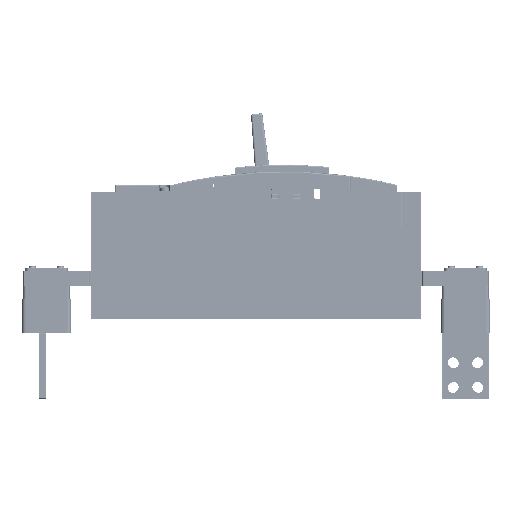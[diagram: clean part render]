
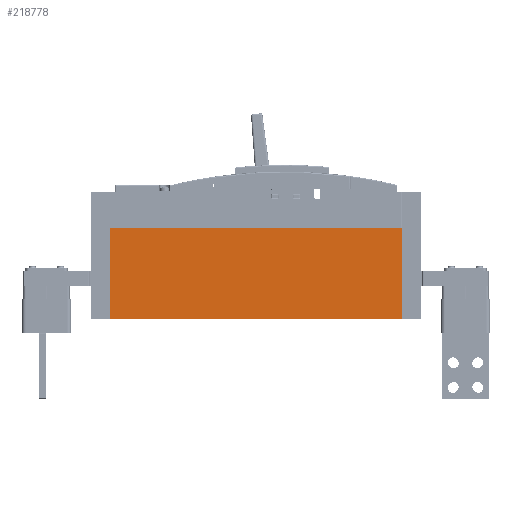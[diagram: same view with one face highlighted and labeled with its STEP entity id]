
A CAD part, left-side view. The second image highlights one B-rep face of the part: STEP entity #218778.
In plain terms, the highlighted planar face has unit normal (-1, 0, 0).
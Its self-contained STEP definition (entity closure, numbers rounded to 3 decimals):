
#90401 = VERTEX_POINT ( 'NONE', #231485 ) ;
#90411 = EDGE_CURVE ( 'NONE', #90416, #90401, #231481, .T. ) ;
#90416 = VERTEX_POINT ( 'NONE', #231466 ) ;
#90841 = VERTEX_POINT ( 'NONE', #232676 ) ;
#90851 = VERTEX_POINT ( 'NONE', #232674 ) ;
#91217 = EDGE_CURVE ( 'NONE', #90841, #90851, #233834, .T. ) ;
#218474 = ORIENTED_EDGE ( 'NONE', *, *, #218768, .T. ) ;
#218480 = ORIENTED_EDGE ( 'NONE', *, *, #90411, .T. ) ;
#218492 = ORIENTED_EDGE ( 'NONE', *, *, #218495, .F. ) ;
#218495 = EDGE_CURVE ( 'NONE', #90851, #90401, #240263, .T. ) ;
#218497 = ORIENTED_EDGE ( 'NONE', *, *, #91217, .F. ) ;
#218768 = EDGE_CURVE ( 'NONE', #90841, #90416, #240898, .T. ) ;
#218778 = ADVANCED_FACE ( 'NONE', ( #240880 ), #240956, .F. ) ;
#218786 = EDGE_LOOP ( 'NONE', ( #218474, #218480, #218492, #218497 ) ) ;
#231466 = CARTESIAN_POINT ( 'NONE',  ( -185.989, 138.477, -36.706 ) ) ;
#231478 = DIRECTION ( 'NONE',  ( 0., -1., 0. ) ) ;
#231479 = VECTOR ( 'NONE', #231478, 1000. ) ;
#231480 = CARTESIAN_POINT ( 'NONE',  ( -185.989, -171.523, -36.706 ) ) ;
#231481 = LINE ( 'NONE', #231480, #231479 ) ;
#231485 = CARTESIAN_POINT ( 'NONE',  ( -185.989, -171.523, -36.706 ) ) ;
#232674 = CARTESIAN_POINT ( 'NONE',  ( -185.989, -171.523, 59.794 ) ) ;
#232676 = CARTESIAN_POINT ( 'NONE',  ( -185.989, 138.477, 59.794 ) ) ;
#233830 = DIRECTION ( 'NONE',  ( 0., -1., 0. ) ) ;
#233832 = VECTOR ( 'NONE', #233830, 1000. ) ;
#233833 = CARTESIAN_POINT ( 'NONE',  ( -185.989, -171.523, 59.794 ) ) ;
#233834 = LINE ( 'NONE', #233833, #233832 ) ;
#240259 = DIRECTION ( 'NONE',  ( 0., 0., -1. ) ) ;
#240260 = VECTOR ( 'NONE', #240259, 1000. ) ;
#240262 = CARTESIAN_POINT ( 'NONE',  ( -185.989, -171.523, 59.794 ) ) ;
#240263 = LINE ( 'NONE', #240262, #240260 ) ;
#240880 = FACE_OUTER_BOUND ( 'NONE', #218786, .T. ) ;
#240892 = DIRECTION ( 'NONE',  ( 0., 0., -1. ) ) ;
#240894 = VECTOR ( 'NONE', #240892, 1000. ) ;
#240896 = CARTESIAN_POINT ( 'NONE',  ( -185.989, 138.477, 59.794 ) ) ;
#240898 = LINE ( 'NONE', #240896, #240894 ) ;
#240946 = DIRECTION ( 'NONE',  ( 0., 0., -1. ) ) ;
#240948 = DIRECTION ( 'NONE',  ( 1., 0., 0. ) ) ;
#240949 = CARTESIAN_POINT ( 'NONE',  ( -185.989, -171.523, 59.794 ) ) ;
#240950 = AXIS2_PLACEMENT_3D ( 'NONE', #240949, #240948, #240946 ) ;
#240956 = PLANE ( 'NONE',  #240950 ) ;
